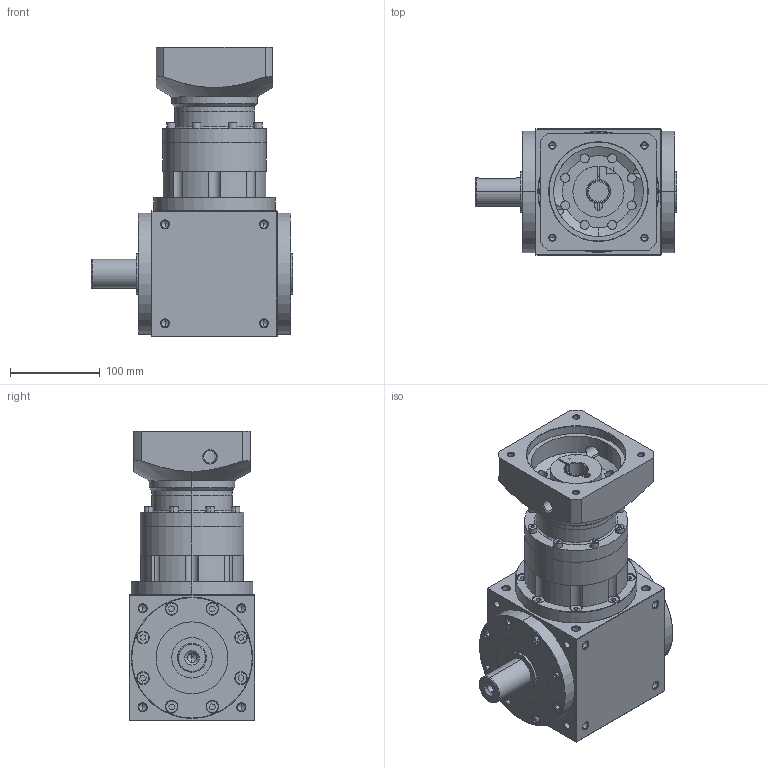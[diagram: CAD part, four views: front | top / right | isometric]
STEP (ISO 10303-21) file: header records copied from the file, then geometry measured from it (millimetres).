
FILE_DESCRIPTION (( 'STEP AP203' ), '1' );
FILE_NAME ('AT140-FL1-L3-22-110-145M8.STEP', '2026-01-03T05:44:34', ( 'Windows User' ), ( 'P R C' ), 'SwSTEP 2.0', 'SolidWorks 2016', '' );
FILE_SCHEMA (( 'CONFIG_CONTROL_DESIGN' ));
Length unit declared in the file: millimetre
Products named in the file (8): AT140-FL1-L3-22-110-145M8; AT140-转角箱体-左-单轴输出; AT140-蛌倰怀堤楊擘; AT140-双级齿圈; AT140-输入法兰-F-110-M8-145; AT140-单级齿圈; 输入胀套-27; 输入轴套-24-22
Assembly tree (7 placements, depth 2):
  AT140-FL1-L3-22-110-145M8
    AT140-转角箱体-左-单轴输出
    AT140-蛌倰怀堤楊擘
    AT140-双级齿圈
    AT140-输入法兰-F-110-M8-145
    输入胀套-27
    输入轴套-24-22
    AT140-单级齿圈
Bounding box: 224 x 140 x 322 mm (x, y, z)
Volume: 3608426.2 mm3; surface area: 455952.9 mm2
Topology: 7 solids, 19 shells, 1677 faces, 4243 edges, 2683 vertices
Faces by surface type: plane 904, cylinder 378, cone 243, bspline 152
Entity records: 57236 total; most frequent: CARTESIAN_POINT 17434, ORIENTED_EDGE 8298, DIRECTION 7525, EDGE_CURVE 4149, LINE 2795, VECTOR 2795, VERTEX_POINT 2683, AXIS2_PLACEMENT_3D 2365
